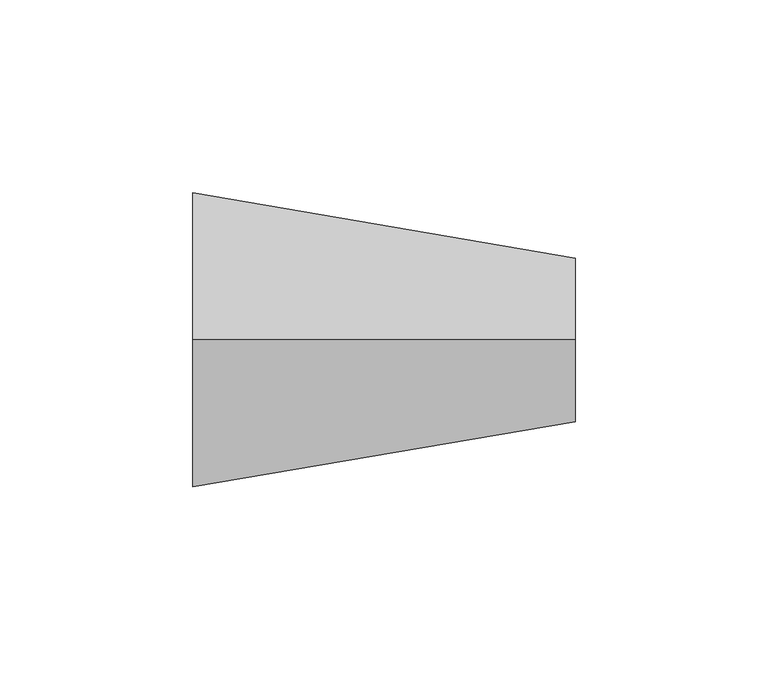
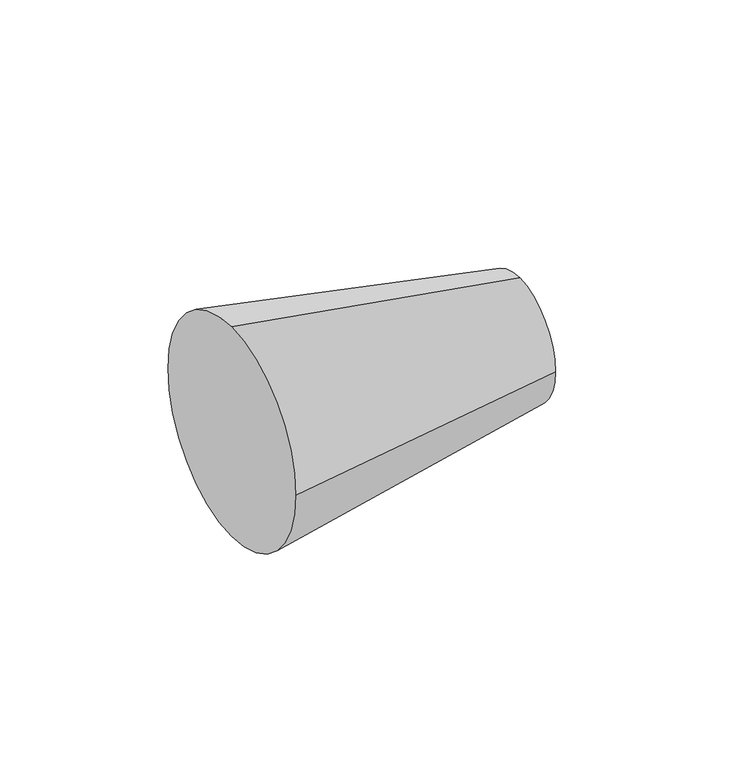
"""IFC4 building model written with IfcOpenShell, lengths in millimetres: pipe fitting geometry, Réduction Acier : Longueur = x3."""

from ifc_helpers import new_model, si_unit, frame, origin, place, context, project, spatial, polyline, circle_curve, source, transform, mapped, element, save
from ifc_brep_helpers import plane_surface, revolved_surface, advanced_brep


def pipe_fitting_7c5e2426(model_context):
    return source(origin(), model_context, "Body", "AdvancedBrep", [
        advanced_brep(
        [(68.5, 0.0, 21.2), (68.5, -21.2, 0.0), (68.5, 0.0, -21.2), (68.5, 21.2, 0.0), (-30.5, 0.0, 38.05), (-30.5, 38.05, 0.0), (-30.5, 0.0, -38.05), (-30.5, -38.05, 0.0)],
        [
            (0, 1, circle_curve(frame((68.5, 0.0, 0.0), z_axis=(1.0, 0.0, 0.0), x_axis=(0.0, 0.0, 1.0)), 21.2)),
            (1, 2, circle_curve(frame((68.5, 0.0, 0.0), z_axis=(1.0, 0.0, 0.0), x_axis=(0.0, -1.0, 0.0)), 21.2)),
            (2, 3, circle_curve(frame((68.5, 0.0, 0.0), z_axis=(1.0, 0.0, 0.0), x_axis=(0.0, 0.0, -1.0)), 21.2)),
            (3, 0, circle_curve(frame((68.5, 0.0, 0.0), z_axis=(1.0, 0.0, 0.0), x_axis=(0.0, 1.0, 0.0)), 21.2)),
            (4, 5, circle_curve(frame((-30.5, 0.0, 0.0), z_axis=(-1.0, 0.0, 0.0), x_axis=(0.0, 1.0, 0.0)), 38.05)),
            (5, 6, circle_curve(frame((-30.5, 0.0, 0.0), z_axis=(-1.0, 0.0, 0.0), x_axis=(0.0, 0.0, -1.0)), 38.05)),
            (6, 7, circle_curve(frame((-30.5, 0.0, 0.0), z_axis=(-1.0, 0.0, 0.0), x_axis=(0.0, -1.0, 0.0)), 38.05)),
            (7, 4, circle_curve(frame((-30.5, 0.0, 0.0), z_axis=(-1.0, 0.0, 0.0), x_axis=(0.0, 0.0, 1.0)), 38.05)),
            (7, 1),
            (0, 4),
            (6, 2),
            (5, 3),
        ],
        [
            plane_surface(frame((68.5, 0.0, 0.0), z_axis=(1.0, 0.0, 0.0), x_axis=(0.0, -1.0, 0.0))),
            plane_surface(frame((-30.5, 0.0, 0.0), z_axis=(-1.0, 0.0, 0.0), x_axis=(0.0, -1.0, 0.0))),
            revolved_surface(polyline([(68.49999999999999, 0.0, 21.19999999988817), (-30.5, 0.0, 38.05)]), (193.0578635, 0.0, 0.0), (-1.0, 0.0, 0.0)),
            revolved_surface(polyline([(68.49999999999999, -21.19999999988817, 0.0), (-30.5, -38.05, 0.0)]), (193.0578635, 0.0, 0.0), (-1.0, 0.0, 0.0)),
            revolved_surface(polyline([(68.49999999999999, 0.0, -21.19999999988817), (-30.5, 0.0, -38.05)]), (193.0578635, 0.0, 0.0), (-1.0, 0.0, 0.0)),
            revolved_surface(polyline([(68.49999999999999, 21.19999999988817, 0.0), (-30.5, 38.05, 0.0)]), (193.0578635, 0.0, 0.0), (-1.0, 0.0, 0.0)),
        ],
        [
            (0, [[1, 2, 3, 4]]),
            (1, [[5, 6, 7, 8]]),
            (2, [[-8, 9, -1, 10]]),
            (3, [[-7, 11, -2, -9]]),
            (4, [[-6, 12, -3, -11]]),
            (5, [[-5, -10, -4, -12]]),
        ],
    ),
    ])


if __name__ == "__main__":
    model = new_model("IFC4")
    model_context = context("Model", 3, world=origin())
    ifc_project = project(units=[si_unit("LENGTHUNIT", "METRE", prefix="MILLI")], contexts=[model_context])
    site = spatial("IfcSite", under=ifc_project)
    building = spatial("IfcBuilding", under=site)
    placement = place(None, origin())
    pipe_fitting_shape = pipe_fitting_7c5e2426(model_context)
    element("IfcPipeFitting", 1, ObjectType="Réduction Acier : Longueur = x3", at=placement, inside=building, context=model_context, shape_type="MappedRepresentation", body=[
        mapped(pipe_fitting_shape, transform((0.0, 0.0, 0.0), x_axis=(1.0, 0.0, 0.0), y_axis=(0.0, 1.0, 0.0), z_axis=(0.0, 0.0, 1.0))),
    ])
    save(model, "model.ifc")
